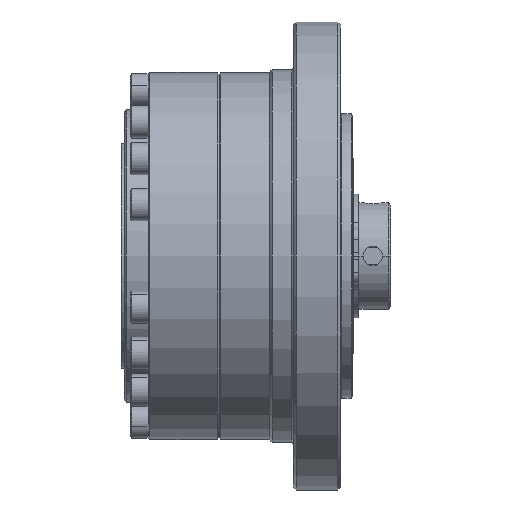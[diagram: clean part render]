
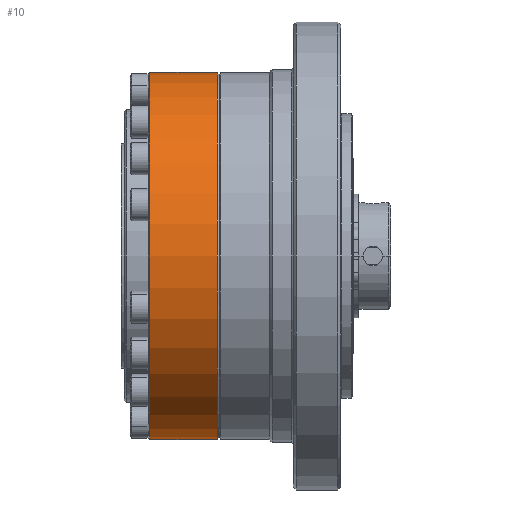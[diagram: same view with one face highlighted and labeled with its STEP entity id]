
A CAD part, front view. The second image highlights one B-rep face of the part: STEP entity #10.
In plain terms, the highlighted cylindrical face has radius 31 mm (diameter 62 mm), a partial arc.
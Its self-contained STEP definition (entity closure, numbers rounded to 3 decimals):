
#10 = ADVANCED_FACE ( 'NONE', ( #5449 ), #5038, .T. ) ;
#221 = CIRCLE ( 'NONE', #10497, 31. ) ;
#311 = DIRECTION ( 'NONE',  ( -1., 0., 0. ) ) ;
#609 = EDGE_CURVE ( 'NONE', #922, #2712, #3719, .T. ) ;
#922 = VERTEX_POINT ( 'NONE', #6523 ) ;
#1760 = CARTESIAN_POINT ( 'NONE',  ( -12.972, 3.104, 110. ) ) ;
#1854 = CARTESIAN_POINT ( 'NONE',  ( -13.272, 3.104, 79. ) ) ;
#1992 = VERTEX_POINT ( 'NONE', #14868 ) ;
#2712 = VERTEX_POINT ( 'NONE', #13893 ) ;
#3029 = LINE ( 'NONE', #1760, #6191 ) ;
#3221 = DIRECTION ( 'NONE',  ( 0., 0., -1. ) ) ;
#3314 = CARTESIAN_POINT ( 'NONE',  ( -12.972, 3.104, 48. ) ) ;
#3521 = ORIENTED_EDGE ( 'NONE', *, *, #5555, .T. ) ;
#3719 = LINE ( 'NONE', #3314, #10393 ) ;
#4468 = CARTESIAN_POINT ( 'NONE',  ( -24.672, 3.104, 79. ) ) ;
#5038 = CYLINDRICAL_SURFACE ( 'NONE', #15309, 31. ) ;
#5440 = ORIENTED_EDGE ( 'NONE', *, *, #6225, .T. ) ;
#5449 = FACE_OUTER_BOUND ( 'NONE', #8980, .T. ) ;
#5555 = EDGE_CURVE ( 'NONE', #16633, #1992, #3029, .T. ) ;
#5663 = CARTESIAN_POINT ( 'NONE',  ( -12.972, 3.104, 79. ) ) ;
#5816 = DIRECTION ( 'NONE',  ( 0., 0., 1. ) ) ;
#6191 = VECTOR ( 'NONE', #311, 1000. ) ;
#6225 = EDGE_CURVE ( 'NONE', #1992, #2712, #221, .T. ) ;
#6239 = DIRECTION ( 'NONE',  ( -1., 0., 0. ) ) ;
#6423 = DIRECTION ( 'NONE',  ( 0., 0., 1. ) ) ;
#6523 = CARTESIAN_POINT ( 'NONE',  ( -13.272, 3.104, 48. ) ) ;
#6595 = ORIENTED_EDGE ( 'NONE', *, *, #12858, .T. ) ;
#8980 = EDGE_LOOP ( 'NONE', ( #15423, #6595, #3521, #5440 ) ) ;
#10393 = VECTOR ( 'NONE', #11107, 1000. ) ;
#10497 = AXIS2_PLACEMENT_3D ( 'NONE', #4468, #13780, #5816 ) ;
#11107 = DIRECTION ( 'NONE',  ( -1., 0., 0. ) ) ;
#11196 = DIRECTION ( 'NONE',  ( -1., 0., 0. ) ) ;
#12858 = EDGE_CURVE ( 'NONE', #922, #16633, #14229, .T. ) ;
#12896 = AXIS2_PLACEMENT_3D ( 'NONE', #1854, #11196, #3221 ) ;
#13780 = DIRECTION ( 'NONE',  ( 1., 0., 0. ) ) ;
#13893 = CARTESIAN_POINT ( 'NONE',  ( -24.672, 3.104, 48. ) ) ;
#14229 = CIRCLE ( 'NONE', #12896, 31. ) ;
#14680 = CARTESIAN_POINT ( 'NONE',  ( -13.272, 3.104, 110. ) ) ;
#14868 = CARTESIAN_POINT ( 'NONE',  ( -24.672, 3.104, 110. ) ) ;
#15309 = AXIS2_PLACEMENT_3D ( 'NONE', #5663, #6239, #6423 ) ;
#15423 = ORIENTED_EDGE ( 'NONE', *, *, #609, .F. ) ;
#16633 = VERTEX_POINT ( 'NONE', #14680 ) ;
